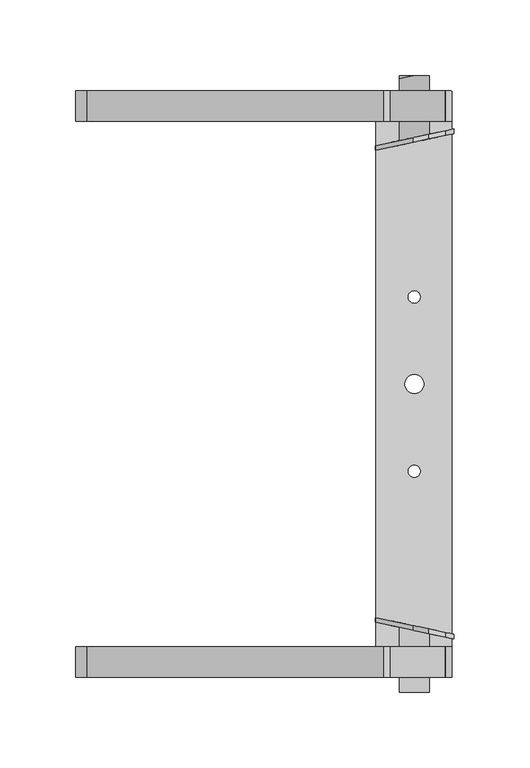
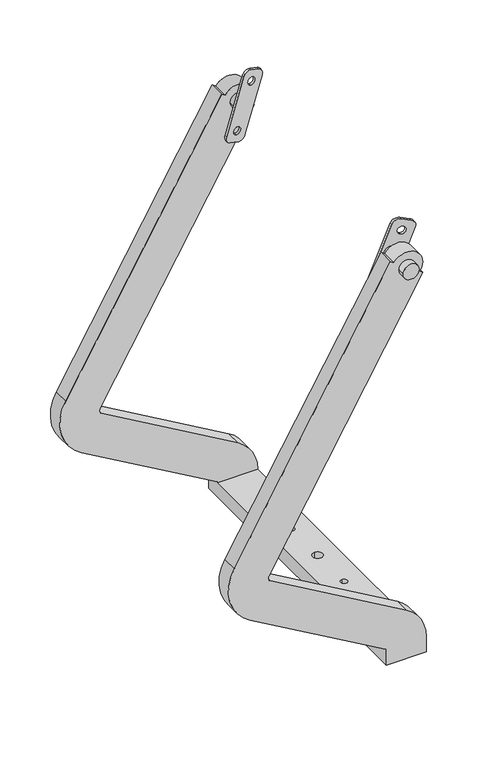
"""IFC4 building model written with IfcOpenShell, lengths in millimetres: proxy geometry, d&b xS-Series 24S Flying Bracket : 24S Flying Bracket."""

from ifc_helpers import new_model, si_unit, point, frame, origin, origin_2d, place, context, project, spatial, polyline, circle_curve, ellipse_curve, trimmed, segment, composite_curve, outline, extrude, source, transform, mapped, element, save
from ifc_brep_helpers import plane_surface, cylinder_surface, revolved_surface, advanced_brep


def communication_devices_b0b455ff(model_context):
    return source(origin(), model_context, "Body", "SolidModel", [
        advanced_brep(
        [(-196.4784998, -173.5365046, -400.1765233), (-216.6098971, -173.5365046, -325.0451261), (-20.5447378, -173.5365046, 14.5496914), (-16.1486659, -173.5365046, 11.4715287), (16.6174159, -173.5365046, -11.4715287), (20.5693158, -173.5365046, -14.2386789), (-173.3086269, -173.5365046, -350.0451261), (-171.4784998, -173.5365046, -356.8752531), (-0.2702831, -173.5365046, -455.7223632), (24.7208916, -173.5365046, -499.9630234), (-25.3170658, -173.5365046, -499.9630234), (-26.1482691, -173.5365046, -498.5167279), (-196.4784998, -193.5365046, -400.1765233), (-26.1482691, -193.5365046, -498.5167279), (-25.3170658, -193.5365046, -499.9630234), (-25.2791084, -193.5365046, -519.8886923), (24.7208916, -193.5365046, -519.8886923), (24.7208916, -193.5365046, -499.9630234), (-0.2702831, -193.5365046, -455.7223632), (-171.4784998, -193.5365046, -356.8752531), (-173.3086269, -193.5365046, -350.0451261), (20.5693158, -193.5365046, -14.2386789), (16.6174159, -193.5365046, -11.4715287), (-16.1486659, -193.5365046, 11.4715287), (-20.5447378, -193.5365046, 14.5496914), (-216.6098971, -193.5365046, -325.0451261), (24.7208916, 173.5365046, -499.9630234), (-25.2811765, 173.5365046, -499.9630234), (-0.0088253, -61.4860861, -499.9630234), (-0.0088253, -53.5139139, -499.9630234), (-0.0088253, 53.5139139, -499.9630234), (-0.0088253, 61.4860861, -499.9630234), (-0.0088253, -6.2, -499.9630234), (-0.0088253, 6.2, -499.9630234), (-25.2791084, 193.5365046, -519.8886923), (24.7208916, 193.5365046, -519.8886923), (-0.0088253, -61.4860861, -519.8886923), (-0.0088253, -53.5139139, -519.8886923), (-0.0088253, 53.5139139, -519.8886923), (-0.0088253, 61.4860861, -519.8886923), (-0.0088253, -6.2, -519.8886923), (-0.0088253, 6.2, -519.8886923), (-25.2791084, 193.5365046, -500.0290694), (-26.1482691, 193.5365046, -498.5167279), (-196.4784998, 193.5365046, -400.1765233), (-216.6098971, 193.5365046, -325.0451261), (-20.5447378, 193.5365046, 14.5496914), (-16.1486659, 193.5365046, 11.4715287), (16.6174159, 193.5365046, -11.4715287), (20.5693158, 193.5365046, -14.2386789), (-173.3086269, 193.5365046, -350.0451261), (-171.4784998, 193.5365046, -356.8752531), (-0.2702831, 193.5365046, -455.7223632), (24.7208916, 193.5365046, -499.9630234), (-196.4784998, 173.5365046, -400.1765233), (-26.1482691, 173.5365046, -498.5167279), (-0.2702831, 173.5365046, -455.7223632), (-171.4784998, 173.5365046, -356.8752531), (-173.3086269, 173.5365046, -350.0451261), (20.5693158, 173.5365046, -14.2386789), (16.6174159, 173.5365046, -11.4715287), (-16.1486659, 173.5365046, 11.4715287), (-20.5447378, 173.5365046, 14.5496914), (-216.6098971, 173.5365046, -325.0451261)],
        [
            (0, 1, circle_curve(frame((-168.9784998, -173.5365046, -352.5451261), z_axis=(0.0, 1.0, 0.0), x_axis=(-1.0, 0.0, 0.0)), 55.0)),
            (1, 2),
            (2, 3),
            (3, 4, circle_curve(frame((0.234375, -173.5365046, 0.0), z_axis=(0.0, 1.0, 0.0), x_axis=(-1.0, 0.0, 0.0)), 20.0)),
            (4, 5),
            (5, 6),
            (6, 7, circle_curve(frame((-168.9784998, -173.5365046, -352.5451261), z_axis=(0.0, -1.0, 0.0), x_axis=(-1.0, 0.0, 0.0)), 5.0)),
            (7, 8),
            (8, 9, circle_curve(frame((-25.2702831, -173.5365046, -499.0236333), z_axis=(0.0, 1.0, 0.0), x_axis=(-1.0, 0.0, 0.0)), 50.0)),
            (9, 10),
            (10, 11),
            (11, 0),
            (12, 13),
            (13, 14),
            (14, 15),
            (15, 16),
            (16, 17),
            (17, 18, circle_curve(frame((-25.2702831, -193.5365046, -499.0236333), z_axis=(0.0, -1.0, 0.0), x_axis=(-1.0, 0.0, 0.0)), 50.0)),
            (18, 19),
            (19, 20, circle_curve(frame((-168.9784998, -193.5365046, -352.5451261), z_axis=(0.0, 1.0, 0.0), x_axis=(-1.0, 0.0, 0.0)), 5.0)),
            (20, 21),
            (21, 22),
            (22, 23, circle_curve(frame((0.234375, -193.5365046, 0.0), z_axis=(0.0, -1.0, 0.0), x_axis=(-1.0, 0.0, 0.0)), 20.0)),
            (23, 24),
            (24, 25),
            (25, 12, circle_curve(frame((-168.9784998, -193.5365046, -352.5451261), z_axis=(0.0, -1.0, 0.0), x_axis=(-1.0, 0.0, 0.0)), 55.0)),
            (0, 12),
            (25, 1),
            (24, 2),
            (23, 3),
            (22, 4),
            (21, 5),
            (20, 6),
            (19, 7),
            (18, 8),
            (17, 9),
            (10, 14),
            (13, 11),
            (9, 26),
            (26, 27),
            (27, 10),
            (28, 29, circle_curve(frame((-0.0088253, -57.5, -499.9630234), z_axis=(0.0, 0.0, -1.0), x_axis=(0.0, 1.0, 0.0)), 3.9860861)),
            (29, 28, circle_curve(frame((-0.0088253, -57.5, -499.9630234), z_axis=(0.0, 0.0, -1.0), x_axis=(0.0, 1.0, 0.0)), 3.9860861)),
            (30, 31, circle_curve(frame((-0.0088253, 57.5, -499.9630234), z_axis=(0.0, 0.0, -1.0), x_axis=(0.0, 1.0, 0.0)), 3.9860861)),
            (31, 30, circle_curve(frame((-0.0088253, 57.5, -499.9630234), z_axis=(0.0, 0.0, -1.0), x_axis=(0.0, 1.0, 0.0)), 3.9860861)),
            (32, 33, circle_curve(frame((-0.0088253, 0.0, -499.9630234), z_axis=(0.0, 0.0, -1.0), x_axis=(0.0, 1.0, 0.0)), 6.2)),
            (33, 32, circle_curve(frame((-0.0088253, 0.0, -499.9630234), z_axis=(0.0, 0.0, -1.0), x_axis=(0.0, 1.0, 0.0)), 6.2)),
            (15, 34),
            (34, 35),
            (35, 16),
            (36, 37, circle_curve(frame((-0.0088253, -57.5, -519.8886923), z_axis=(0.0, 0.0, 1.0), x_axis=(0.0, 1.0, 0.0)), 3.9860861)),
            (37, 36, circle_curve(frame((-0.0088253, -57.5, -519.8886923), z_axis=(0.0, 0.0, 1.0), x_axis=(0.0, 1.0, 0.0)), 3.9860861)),
            (38, 39, circle_curve(frame((-0.0088253, 57.5, -519.8886923), z_axis=(0.0, 0.0, 1.0), x_axis=(0.0, 1.0, 0.0)), 3.9860861)),
            (39, 38, circle_curve(frame((-0.0088253, 57.5, -519.8886923), z_axis=(0.0, 0.0, 1.0), x_axis=(0.0, 1.0, 0.0)), 3.9860861)),
            (40, 41, circle_curve(frame((-0.0088253, 0.0, -519.8886923), z_axis=(0.0, 0.0, 1.0), x_axis=(0.0, 1.0, 0.0)), 6.2)),
            (41, 40, circle_curve(frame((-0.0088253, 0.0, -519.8886923), z_axis=(0.0, 0.0, 1.0), x_axis=(0.0, 1.0, 0.0)), 6.2)),
            (27, 42),
            (42, 34),
            (42, 43),
            (43, 44),
            (44, 45, circle_curve(frame((-168.9784998, 193.5365046, -352.5451261), z_axis=(0.0, 1.0, 0.0), x_axis=(-1.0, 0.0, 0.0)), 55.0)),
            (45, 46),
            (46, 47),
            (47, 48, circle_curve(frame((0.234375, 193.5365046, 0.0), z_axis=(0.0, 1.0, 0.0), x_axis=(-1.0, 0.0, 0.0)), 20.0)),
            (48, 49),
            (49, 50),
            (50, 51, circle_curve(frame((-168.9784998, 193.5365046, -352.5451261), z_axis=(0.0, -1.0, 0.0), x_axis=(-1.0, 0.0, 0.0)), 5.0)),
            (51, 52),
            (52, 53, circle_curve(frame((-25.2702831, 193.5365046, -499.0236333), z_axis=(0.0, 1.0, 0.0), x_axis=(-1.0, 0.0, 0.0)), 50.0)),
            (53, 35),
            (53, 26),
            (29, 37),
            (36, 28),
            (31, 39),
            (38, 30),
            (33, 41),
            (40, 32),
            (54, 55),
            (55, 27),
            (26, 56, circle_curve(frame((-25.2702831, 173.5365046, -499.0236333), z_axis=(0.0, -1.0, 0.0), x_axis=(-1.0, 0.0, 0.0)), 50.0)),
            (56, 57),
            (57, 58, circle_curve(frame((-168.9784998, 173.5365046, -352.5451261), z_axis=(0.0, 1.0, 0.0), x_axis=(-1.0, 0.0, 0.0)), 5.0)),
            (58, 59),
            (59, 60),
            (60, 61, circle_curve(frame((0.234375, 173.5365046, 0.0), z_axis=(0.0, -1.0, 0.0), x_axis=(-1.0, 0.0, 0.0)), 20.0)),
            (61, 62),
            (62, 63),
            (63, 54, circle_curve(frame((-168.9784998, 173.5365046, -352.5451261), z_axis=(0.0, -1.0, 0.0), x_axis=(-1.0, 0.0, 0.0)), 55.0)),
            (63, 45),
            (44, 54),
            (62, 46),
            (61, 47),
            (60, 48),
            (59, 49),
            (58, 50),
            (57, 51),
            (56, 52),
            (55, 43),
        ],
        [
            plane_surface(frame((-223.9784998, -173.5365046, -352.5451261), z_axis=(0.0, 1.0, 0.0), x_axis=(0.0, 0.0, -1.0))),
            plane_surface(frame((-223.9784998, -193.5365046, -352.5451261), z_axis=(0.0, -1.0, 0.0), x_axis=(0.0, 0.0, 1.0))),
            cylinder_surface(frame((-168.9784998, -173.5365046, -352.5451261), z_axis=(0.0, -1.0, 0.0), x_axis=(-1.0, 0.0, 0.0)), 55.0),
            plane_surface(frame((-216.6098971, -193.5365046, -325.0451261), z_axis=(-0.866025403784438, 0.0, 0.500000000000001), x_axis=(0.0, 1.0, 0.0))),
            plane_surface(frame((-20.5447378, -193.5365046, 14.5496914), z_axis=(0.5735764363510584, 0.0, 0.8191520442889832), x_axis=(0.0, 1.0, 0.0))),
            cylinder_surface(frame((0.234375, -173.5365046, 0.0), z_axis=(0.0, -1.0, 0.0), x_axis=(-1.0, 0.0, 0.0)), 20.0),
            plane_surface(frame((16.6174159, -193.5365046, -11.4715287), z_axis=(0.573576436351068, 0.0, 0.8191520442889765), x_axis=(0.0, 1.0, 0.0))),
            plane_surface(frame((20.5693158, -193.5365046, -14.2386789), z_axis=(0.8660254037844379, 0.0, -0.5000000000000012), x_axis=(0.0, 1.0, 0.0))),
            revolved_surface(polyline([(-173.9784998, -173.5365046, -352.5451261), (-173.9784998, -193.5365046, -352.5451261)]), (-168.9784998, -173.5365046, -352.5451261), (0.0, 1.0, 0.0)),
            plane_surface(frame((-171.4784998, -193.5365046, -356.8752531), z_axis=(0.4999999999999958, 0.0, 0.8660254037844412), x_axis=(0.0, 1.0, 0.0))),
            cylinder_surface(frame((-25.2702831, -173.5365046, -499.0236333), z_axis=(0.0, -1.0, 0.0), x_axis=(-1.0, 0.0, 0.0)), 50.0),
            plane_surface(frame((-25.3170658, -193.5365046, -499.9630234), z_axis=(-0.867014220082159, 0.0, -0.49828339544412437), x_axis=(0.0, 1.0, 0.0))),
            plane_surface(frame((-26.1482691, -193.5365046, -498.5167279), z_axis=(-0.4999999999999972, 0.0, -0.8660254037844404), x_axis=(0.0, 1.0, 0.0))),
            plane_surface(frame((-25.2791084, -193.5365046, -499.9630234), z_axis=(0.0, 0.0, 1.0), x_axis=(-1.0, 0.0, 0.0))),
            plane_surface(frame((-25.2791084, -193.5365046, -519.8886923), z_axis=(0.0, 0.0, -1.0), x_axis=(1.0, 0.0, 0.0))),
            plane_surface(frame((-25.2791084, -193.5365046, -499.9630234), z_axis=(-1.0, 0.0, 0.0), x_axis=(0.0, 0.0, -1.0))),
            plane_surface(frame((-25.2791084, 193.5365046, -499.9630234), z_axis=(0.0, 1.0, 0.0), x_axis=(0.0, 0.0, -1.0))),
            plane_surface(frame((24.7208916, 193.5365046, -499.9630234), z_axis=(1.0, 0.0, 0.0), x_axis=(0.0, 0.0, -1.0))),
            revolved_surface(polyline([(-0.0088253, -53.5139139, -519.8886923), (-0.0088253, -53.5139139, -499.9630234)]), (-0.0088253, -57.5, -1019.8517157), (0.0, 0.0, -1.0)),
            revolved_surface(polyline([(-0.0088253, 61.4860861, -519.8886923), (-0.0088253, 61.4860861, -499.9630234)]), (-0.0088253, 57.5, -1019.8517157), (0.0, 0.0, -1.0)),
            revolved_surface(polyline([(-0.0088253, 6.2, -519.8886923), (-0.0088253, 6.2, -499.9630234)]), (-0.0088253, 0.0, -1019.8517157), (0.0, 0.0, -1.0)),
            plane_surface(frame((-26.1482691, 173.5365046, -498.5167279), z_axis=(0.0, -1.0000000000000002, 0.0), x_axis=(-0.8660254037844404, 0.0, 0.4999999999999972))),
            cylinder_surface(frame((-168.9784998, 173.5365046, -352.5451261), z_axis=(0.0, 1.0, 0.0), x_axis=(-1.0, 0.0, 0.0)), 55.0),
            plane_surface(frame((-20.5447378, 193.5365046, 14.5496914), z_axis=(-0.866025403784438, 0.0, 0.500000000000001), x_axis=(0.0, -1.0, 0.0))),
            plane_surface(frame((-16.1486659, 193.5365046, 11.4715287), z_axis=(0.5735764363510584, 0.0, 0.8191520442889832), x_axis=(0.0, -1.0, 0.0))),
            cylinder_surface(frame((0.234375, 173.5365046, 0.0), z_axis=(0.0, 1.0, 0.0), x_axis=(-1.0, 0.0, 0.0)), 20.0),
            plane_surface(frame((20.5693158, 193.5365046, -14.2386789), z_axis=(0.573576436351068, 0.0, 0.8191520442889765), x_axis=(0.0, -1.0, 0.0))),
            plane_surface(frame((-173.3086269, 193.5365046, -350.0451261), z_axis=(0.8660254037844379, 0.0, -0.5000000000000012), x_axis=(0.0, -1.0, 0.0))),
            revolved_surface(polyline([(-173.9784998, 173.5365046, -352.5451261), (-173.9784998, 193.5365046, -352.5451261)]), (-168.9784998, 173.5365046, -352.5451261), (0.0, -1.0, 0.0)),
            plane_surface(frame((-0.2702831, 193.5365046, -455.7223632), z_axis=(0.4999999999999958, 0.0, 0.8660254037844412), x_axis=(0.0, -1.0, 0.0))),
            cylinder_surface(frame((-25.2702831, 173.5365046, -499.0236333), z_axis=(0.0, 1.0, 0.0), x_axis=(-1.0, 0.0, 0.0)), 50.0),
            plane_surface(frame((-26.1482691, 193.5365046, -498.5167279), z_axis=(-0.867014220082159, 0.0, -0.49828339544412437), x_axis=(0.0, -1.0, 0.0))),
            plane_surface(frame((-196.4784998, 193.5365046, -400.1765233), z_axis=(-0.4999999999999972, 0.0, -0.8660254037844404), x_axis=(0.0, -1.0, 0.0))),
        ],
        [
            (0, [[1, 2, 3, 4, 5, 6, 7, 8, 9, 10, 11, 12]]),
            (1, [[13, 14, 15, 16, 17, 18, 19, 20, 21, 22, 23, 24, 25, 26]]),
            (2, [[27, -26, 28, -1]]),
            (3, [[-28, -25, 29, -2]]),
            (4, [[-29, -24, 30, -3]]),
            (5, [[-30, -23, 31, -4]]),
            (6, [[-31, -22, 32, -5]]),
            (7, [[-32, -21, 33, -6]]),
            (8, [[-33, -20, 34, -7]]),
            (9, [[-34, -19, 35, -8]]),
            (10, [[-35, -18, 36, -9]]),
            (11, [[37, -14, 38, -11]]),
            (12, [[-38, -13, -27, -12]]),
            (13, [[39, 40, 41, -10], [42, 43], [44, 45], [46, 47]]),
            (14, [[-16, 48, 49, 50], [51, 52], [53, 54], [55, 56]]),
            (15, [[-15, -37, -41, 57, 58, -48]]),
            (16, [[-58, 59, 60, 61, 62, 63, 64, 65, 66, 67, 68, 69, 70, -49]]),
            (17, [[-70, 71, -39, -36, -17, -50]]),
            (18, [[72, -51, 73, -43]]),
            (18, [[-73, -52, -72, -42]]),
            (19, [[74, -53, 75, -45]]),
            (19, [[-75, -54, -74, -44]]),
            (20, [[76, -55, 77, -47]]),
            (20, [[-77, -56, -76, -46]]),
            (21, [[78, 79, -40, 80, 81, 82, 83, 84, 85, 86, 87, 88]]),
            (22, [[89, -61, 90, -88]]),
            (23, [[91, -62, -89, -87]]),
            (24, [[92, -63, -91, -86]]),
            (25, [[93, -64, -92, -85]]),
            (26, [[94, -65, -93, -84]]),
            (27, [[95, -66, -94, -83]]),
            (28, [[96, -67, -95, -82]]),
            (29, [[97, -68, -96, -81]]),
            (30, [[-71, -69, -97, -80]]),
            (31, [[98, -59, -57, -79]]),
            (32, [[-90, -60, -98, -78]]),
        ],
    ),
        advanced_brep(
        [(-10.0, 160.6914876, 0.0), (10.0, 164.9426189, 0.0), (10.0, 173.5365046, 0.0), (-10.0, 173.5365046, 0.0)],
        [
            (0, 1, ellipse_curve(frame((0.0, 162.8170533, 0.0), z_axis=(0.2079116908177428, -0.9781476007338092, 0.0), x_axis=(0.9781476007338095, 0.20791169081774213, 0.0)), 10.2234059, 10.0)),
            (1, 0, ellipse_curve(frame((0.0, 162.8170533, 0.0), z_axis=(0.2079116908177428, -0.9781476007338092, 0.0), x_axis=(0.9781476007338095, 0.20791169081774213, 0.0)), 10.2234059, 10.0)),
            (2, 3, circle_curve(frame((0.0, 173.5365046, 0.0), z_axis=(0.0, 1.0, 0.0), x_axis=(-1.0, 0.0, 0.0)), 10.0)),
            (3, 2, circle_curve(frame((0.0, 173.5365046, 0.0), z_axis=(0.0, 1.0, 0.0), x_axis=(-1.0, 0.0, 0.0)), 10.0)),
            (3, 0),
            (1, 2),
        ],
        [
            plane_surface(frame((-88.6570191, 143.9724221, 100.0), z_axis=(0.2079116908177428, -0.9781476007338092, 0.0), x_axis=(0.0, 0.0, -1.0))),
            plane_surface(frame((-10.0, 173.5365046, 0.0), z_axis=(0.0, 1.0, 0.0), x_axis=(0.0, 0.0, -1.0))),
            cylinder_surface(frame((0.0, 140.8093285, 0.0), z_axis=(0.0, 1.0, 0.0), x_axis=(-1.0, 0.0, 0.0)), 10.0),
        ],
        [
            (0, [[1, 2]]),
            (1, [[3, 4]]),
            (2, [[5, -2, 6, -4]]),
            (2, [[-6, -1, -5, -3]]),
        ],
    ),
        advanced_brep(
        [(-9.1707795, 157.8007221, -43.4006257), (-20.4582431, 155.4014977, -39.2923249), (-20.4582431, 158.4685194, -39.2923249), (-9.1707795, 160.8677439, -43.4006257), (1.0829226, 163.0472356, -38.6192459), (1.0829226, 159.9802138, -38.6192459), (25.7083729, 168.2815366, 29.0386228), (25.7083729, 165.2145148, 29.0386228), (20.9269931, 167.265223, 39.2923249), (20.9269931, 164.1982012, 39.2923249), (9.6077417, 164.8592418, 43.4121955), (9.6077417, 161.79222, 43.4121955), (-0.6026028, 162.6889661, 38.6510336), (-0.6026028, 159.6219443, 38.6510336), (-25.2396229, 157.4522058, -29.0386228), (-25.2396229, 154.385184, -29.0386228), (11.9848396, 162.2974878, 32.9694027), (8.5646381, 161.5705015, 23.5724765), (8.5646381, 164.6375233, 23.5724765), (11.9848396, 165.3645095, 32.9694027), (-8.536369, 157.9355702, -23.4121545), (-11.9565705, 157.208584, -32.8090808), (-11.9565705, 160.2756057, -32.8090808), (-8.536369, 161.002592, -23.4121545)],
        [
            (0, 1),
            (1, 2),
            (2, 3),
            (3, 0),
            (3, 4, ellipse_curve(frame((-6.4346183, 161.4493329, -35.8830847), z_axis=(0.20791169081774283, -0.9781476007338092, 0.0), x_axis=(-0.9781476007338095, -0.20791169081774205, 0.0)), 8.1787248, 8.0)),
            (4, 5),
            (5, 0, ellipse_curve(frame((-6.4346183, 158.3823111, -35.8830847), z_axis=(-0.20791169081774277, 0.9781476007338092, 0.0), x_axis=(-0.9781476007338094, -0.20791169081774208, 0.0)), 8.1787248, 8.0)),
            (4, 6),
            (6, 7),
            (7, 5),
            (6, 8, ellipse_curve(frame((18.190832, 166.683634, 31.774784), z_axis=(0.20791169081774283, -0.9781476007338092, 0.0), x_axis=(-0.9781476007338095, -0.20791169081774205, 0.0)), 8.1787248, 8.0)),
            (8, 9),
            (9, 7, ellipse_curve(frame((18.190832, 163.6166122, 31.774784), z_axis=(-0.20791169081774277, 0.9781476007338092, 0.0), x_axis=(-0.9781476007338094, -0.20791169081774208, 0.0)), 8.1787248, 8.0)),
            (8, 10),
            (10, 11),
            (11, 9),
            (10, 12, ellipse_curve(frame((6.8831504, 164.280112, 35.9264423), z_axis=(0.20791169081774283, -0.9781476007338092, 0.0), x_axis=(-0.9781476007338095, -0.20791169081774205, 0.0)), 8.1441412, 7.9661722)),
            (12, 13),
            (13, 11, ellipse_curve(frame((6.8831504, 161.2130903, 35.9264423), z_axis=(-0.20791169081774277, 0.9781476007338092, 0.0), x_axis=(-0.9781476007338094, -0.20791169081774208, 0.0)), 8.1441412, 7.9661722)),
            (12, 14),
            (14, 15),
            (15, 13),
            (14, 2, ellipse_curve(frame((-17.722082, 159.0501084, -31.774784), z_axis=(0.20791169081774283, -0.9781476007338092, 0.0), x_axis=(-0.9781476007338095, -0.20791169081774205, 0.0)), 8.1787248, 8.0)),
            (1, 15, ellipse_curve(frame((-17.722082, 155.9830867, -31.774784), z_axis=(-0.20791169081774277, 0.9781476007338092, 0.0), x_axis=(-0.9781476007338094, -0.20791169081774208, 0.0)), 8.1787248, 8.0)),
            (16, 17, ellipse_curve(frame((10.2747388, 161.9339946, 28.2709396), z_axis=(0.20791169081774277, -0.9781476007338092, 0.0), x_axis=(0.9781476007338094, 0.20791169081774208, 0.0)), 5.111703, 5.0)),
            (17, 18),
            (18, 19, ellipse_curve(frame((10.2747388, 165.0010164, 28.2709396), z_axis=(-0.20791169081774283, 0.9781476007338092, 0.0), x_axis=(0.9781476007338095, 0.20791169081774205, 0.0)), 5.111703, 5.0)),
            (19, 16),
            (19, 18, ellipse_curve(frame((10.2747388, 165.0010164, 28.2709396), z_axis=(-0.20791169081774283, 0.9781476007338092, 0.0), x_axis=(0.9781476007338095, 0.20791169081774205, 0.0)), 5.111703, 5.0)),
            (17, 16, ellipse_curve(frame((10.2747388, 161.9339946, 28.2709396), z_axis=(0.20791169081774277, -0.9781476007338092, 0.0), x_axis=(0.9781476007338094, 0.20791169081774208, 0.0)), 5.111703, 5.0)),
            (20, 21, ellipse_curve(frame((-10.2464698, 157.5720771, -28.1106177), z_axis=(0.20791169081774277, -0.9781476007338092, 0.0), x_axis=(0.9781476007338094, 0.20791169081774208, 0.0)), 5.111703, 5.0)),
            (21, 22),
            (22, 23, ellipse_curve(frame((-10.2464698, 160.6390989, -28.1106177), z_axis=(-0.20791169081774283, 0.9781476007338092, 0.0), x_axis=(0.9781476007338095, 0.20791169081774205, 0.0)), 5.111703, 5.0)),
            (23, 20),
            (23, 22, ellipse_curve(frame((-10.2464698, 160.6390989, -28.1106177), z_axis=(-0.20791169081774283, 0.9781476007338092, 0.0), x_axis=(0.9781476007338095, 0.20791169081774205, 0.0)), 5.111703, 5.0)),
            (21, 20, ellipse_curve(frame((-10.2464698, 157.5720771, -28.1106177), z_axis=(0.20791169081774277, -0.9781476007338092, 0.0), x_axis=(0.9781476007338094, 0.20791169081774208, 0.0)), 5.111703, 5.0)),
        ],
        [
            plane_surface(frame((-9.1707795, 121.0483112, -43.4006257), z_axis=(-0.34202014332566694, 0.0, -0.9396926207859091), x_axis=(0.0, 1.0, 0.0))),
            cylinder_surface(frame((-6.4346183, 173.5365046, -35.8830847), z_axis=(0.0, -1.0, 0.0), x_axis=(0.34202014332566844, 0.0, 0.9396926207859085)), 8.0),
            plane_surface(frame((25.7083729, 121.0483112, 29.0386228), z_axis=(0.9396926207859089, 0.0, -0.34202014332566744), x_axis=(0.0, 1.0, 0.0))),
            cylinder_surface(frame((18.190832, 173.5365046, 31.774784), z_axis=(0.0, -1.0, 0.0), x_axis=(0.34202014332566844, 0.0, 0.9396926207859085)), 8.0),
            plane_surface(frame((9.6077417, 121.0483112, 43.4121955), z_axis=(0.3420201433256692, 0.0, 0.9396926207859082), x_axis=(0.0, 1.0, 0.0))),
            cylinder_surface(frame((6.8831504, 173.5365046, 35.9264423), z_axis=(0.0, -1.0, 0.0), x_axis=(0.34202014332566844, 0.0, 0.9396926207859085)), 7.9661722),
            plane_surface(frame((-25.2396229, 121.0483112, -29.0386228), z_axis=(-0.9396926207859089, 0.0, 0.3420201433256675), x_axis=(0.0, 1.0, 0.0))),
            cylinder_surface(frame((-17.722082, 173.5365046, -31.774784), z_axis=(0.0, -1.0, 0.0), x_axis=(0.34202014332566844, 0.0, 0.9396926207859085)), 8.0),
            revolved_surface(polyline([(11.984839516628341, 166.06379921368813, 32.96940270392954), (11.984839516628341, 160.87121178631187, 32.96940270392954)]), (10.2747388, 0.0, 28.2709396), (0.0, 1.0, 0.0)),
            revolved_surface(polyline([(-8.536369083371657, 161.70188171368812, -23.412154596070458), (-8.536369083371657, 156.50929428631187, -23.412154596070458)]), (-10.2464698, 0.0, -28.1106177), (0.0, 1.0, 0.0)),
            plane_surface(frame((-88.0332841, 141.0379793, 100.0), z_axis=(0.20791169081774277, -0.9781476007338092, 0.0), x_axis=(0.0, 0.0, -1.0))),
            plane_surface(frame((126.535453, 189.7129941, 100.0), z_axis=(-0.20791169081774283, 0.9781476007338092, 0.0), x_axis=(0.0, 0.0, -1.0))),
        ],
        [
            (0, [[1, 2, 3, 4]]),
            (1, [[5, 6, 7, -4]]),
            (2, [[8, 9, 10, -6]]),
            (3, [[11, 12, 13, -9]]),
            (4, [[14, 15, 16, -12]]),
            (5, [[17, 18, 19, -15]]),
            (6, [[20, 21, 22, -18]]),
            (7, [[23, -2, 24, -21]]),
            (8, [[25, 26, 27, 28]]),
            (8, [[29, -26, 30, -28]]),
            (9, [[31, 32, 33, 34]]),
            (9, [[35, -32, 36, -34]]),
            (10, [[-7, -10, -13, -16, -19, -22, -24, -1], [-30, -25], [-36, -31]]),
            (11, [[-23, -20, -17, -14, -11, -8, -5, -3], [-29, -27], [-35, -33]]),
        ],
    ),
        advanced_brep(
        [(-0.819417, 203.5365046, 9.9663712), (-0.819417, 203.5365046, -9.9663712), (-10.0, 203.5365046, 0.0), (-10.0, 201.5851114, 0.0)],
        [
            (0, 1),
            (1, 2, circle_curve(frame((0.0, 203.5365046, 0.0), z_axis=(0.0, 1.0, 0.0), x_axis=(-1.0, 0.0, 0.0)), 10.0)),
            (2, 0, circle_curve(frame((0.0, 203.5365046, 0.0), z_axis=(0.0, 1.0, 0.0), x_axis=(-1.0, 0.0, 0.0)), 10.0)),
            (2, 3),
            (3, 0, ellipse_curve(frame((0.0, 203.7106771, 0.0), z_axis=(-0.2079116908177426, 0.9781476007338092, 0.0), x_axis=(0.9781476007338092, 0.2079116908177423, 0.0)), 10.2234059, 10.0)),
            (1, 3, ellipse_curve(frame((0.0, 203.7106771, 0.0), z_axis=(-0.2079116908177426, 0.9781476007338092, 0.0), x_axis=(0.9781476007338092, 0.2079116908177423, 0.0)), 10.2234059, 10.0)),
        ],
        [
            plane_surface(frame((-10.0, 203.5365046, 0.0), z_axis=(0.0, 1.0, 0.0), x_axis=(0.0, 0.0, -1.0))),
            cylinder_surface(frame((0.0, 193.5365046, 0.0), z_axis=(0.0, 1.0, 0.0), x_axis=(-1.0, 0.0, 0.0)), 10.0),
            plane_surface(frame((-96.9734868, 183.0983261, 100.0), z_axis=(0.2079116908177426, -0.9781476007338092, 0.0), x_axis=(0.0, 0.0, -1.0))),
        ],
        [
            (0, [[1, 2, 3]]),
            (1, [[4, 5, -3]]),
            (1, [[6, -4, -2]]),
            (2, [[-5, -6, -1]]),
        ],
    ),
        advanced_brep(
        [(10.0, -164.9426189, 0.0), (-10.0, -160.6914876, 0.0), (10.0, -173.5365046, 0.0), (-10.0, -173.5365046, 0.0)],
        [
            (0, 1, ellipse_curve(frame((0.0, -162.8170533, 0.0), z_axis=(0.20791169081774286, 0.9781476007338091, 0.0), x_axis=(0.9781476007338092, -0.20791169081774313, 0.0)), 10.2234059, 10.0)),
            (1, 0, ellipse_curve(frame((0.0, -162.8170533, 0.0), z_axis=(0.20791169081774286, 0.9781476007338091, 0.0), x_axis=(0.9781476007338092, -0.20791169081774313, 0.0)), 10.2234059, 10.0)),
            (2, 3, circle_curve(frame((0.0, -173.5365046, 0.0), z_axis=(0.0, -1.0, 0.0), x_axis=(-1.0, 0.0, 0.0)), 10.0)),
            (3, 2, circle_curve(frame((0.0, -173.5365046, 0.0), z_axis=(0.0, -1.0, 0.0), x_axis=(-1.0, 0.0, 0.0)), 10.0)),
            (2, 0),
            (1, 3),
        ],
        [
            plane_surface(frame((126.535453, -189.7129941, 100.0), z_axis=(0.20791169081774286, 0.9781476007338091, 0.0), x_axis=(0.0, 0.0, -1.0))),
            plane_surface(frame((-10.0, -173.5365046, 0.0), z_axis=(0.0, -1.0, 0.0), x_axis=(0.0, 0.0, 1.0))),
            cylinder_surface(frame((0.0, -140.8093285, 0.0), z_axis=(0.0, -1.0, 0.0), x_axis=(-1.0, 0.0, 0.0)), 10.0),
        ],
        [
            (0, [[1, 2]]),
            (1, [[3, 4]]),
            (2, [[5, -2, 6, -3]]),
            (2, [[-6, -1, -5, -4]]),
        ],
    ),
        extrude(outline(composite_curve([segment(trimmed(circle_curve(origin_2d(), 10.0), [point((0.0, -10.0))], [point((0.0, 10.0))], False, "CARTESIAN"), True, "CONTINUOUS"), segment(trimmed(circle_curve(origin_2d(), 10.0), [point((0.0, 10.0))], [point((0.0, -10.0))], False, "CARTESIAN"), True, "CONTINUOUS")], self_intersect=False)), frame((0.0, -203.5365046, 0.0), z_axis=(0.0, 1.0, 0.0), x_axis=(0.0, 0.0, 1.0)), (0.0, 0.0, 1.0), 10.0),
        advanced_brep(
        [(-20.4582431, -155.4014977, -39.2923249), (-9.1707795, -157.8007221, -43.4006257), (-9.1707795, -160.8677439, -43.4006257), (-20.4582431, -158.4685194, -39.2923249), (1.0829226, -159.9802138, -38.6192459), (1.0829226, -163.0472356, -38.6192459), (25.7083729, -165.2145148, 29.0386228), (25.7083729, -168.2815366, 29.0386228), (20.9269931, -164.1982012, 39.2923249), (20.9269931, -167.265223, 39.2923249), (9.6077417, -161.79222, 43.4121955), (9.6077417, -164.8592418, 43.4121955), (-0.6026028, -159.6219443, 38.6510336), (-0.6026028, -162.6889661, 38.6510336), (-25.2396229, -154.385184, -29.0386228), (-25.2396229, -157.4522058, -29.0386228), (8.5646381, -161.5705015, 23.5724765), (11.9848396, -162.2974878, 32.9694027), (11.9848396, -165.3645095, 32.9694027), (8.5646381, -164.6375233, 23.5724765), (-11.9565705, -157.208584, -32.8090808), (-8.536369, -157.9355702, -23.4121545), (-8.536369, -161.002592, -23.4121545), (-11.9565705, -160.2756057, -32.8090808)],
        [
            (0, 1),
            (1, 2),
            (2, 3),
            (3, 0),
            (1, 4, ellipse_curve(frame((-6.4346183, -158.3823111, -35.8830847), z_axis=(-0.20791169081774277, -0.9781476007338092, 0.0), x_axis=(-0.9781476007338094, 0.20791169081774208, 0.0)), 8.1787248, 8.0)),
            (4, 5),
            (5, 2, ellipse_curve(frame((-6.4346183, -161.4493329, -35.8830847), z_axis=(0.20791169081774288, 0.9781476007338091, 0.0), x_axis=(-0.978147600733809, 0.207911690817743, 0.0)), 8.1787248, 8.0)),
            (4, 6),
            (6, 7),
            (7, 5),
            (6, 8, ellipse_curve(frame((18.190832, -163.6166122, 31.774784), z_axis=(-0.20791169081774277, -0.9781476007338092, 0.0), x_axis=(-0.9781476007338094, 0.20791169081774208, 0.0)), 8.1787248, 8.0)),
            (8, 9),
            (9, 7, ellipse_curve(frame((18.190832, -166.683634, 31.774784), z_axis=(0.20791169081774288, 0.9781476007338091, 0.0), x_axis=(-0.978147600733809, 0.207911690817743, 0.0)), 8.1787248, 8.0)),
            (8, 10),
            (10, 11),
            (11, 9),
            (10, 12, ellipse_curve(frame((6.8831504, -161.2130903, 35.9264423), z_axis=(-0.20791169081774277, -0.9781476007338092, 0.0), x_axis=(-0.9781476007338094, 0.20791169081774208, 0.0)), 8.1441412, 7.9661722)),
            (12, 13),
            (13, 11, ellipse_curve(frame((6.8831504, -164.280112, 35.9264423), z_axis=(0.20791169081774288, 0.9781476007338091, 0.0), x_axis=(-0.978147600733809, 0.207911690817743, 0.0)), 8.1441412, 7.9661722)),
            (12, 14),
            (14, 15),
            (15, 13),
            (3, 15, ellipse_curve(frame((-17.722082, -159.0501084, -31.774784), z_axis=(0.20791169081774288, 0.9781476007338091, 0.0), x_axis=(-0.978147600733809, 0.207911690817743, 0.0)), 8.1787248, 8.0)),
            (14, 0, ellipse_curve(frame((-17.722082, -155.9830867, -31.774784), z_axis=(-0.20791169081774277, -0.9781476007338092, 0.0), x_axis=(-0.9781476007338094, 0.20791169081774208, 0.0)), 8.1787248, 8.0)),
            (16, 17, ellipse_curve(frame((10.2747388, -161.9339946, 28.2709396), z_axis=(0.20791169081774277, 0.9781476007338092, 0.0), x_axis=(0.9781476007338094, -0.20791169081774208, 0.0)), 5.111703, 5.0)),
            (17, 18),
            (18, 19, ellipse_curve(frame((10.2747388, -165.0010164, 28.2709396), z_axis=(-0.20791169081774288, -0.9781476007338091, 0.0), x_axis=(0.978147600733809, -0.207911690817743, 0.0)), 5.111703, 5.0)),
            (19, 16),
            (19, 18, ellipse_curve(frame((10.2747388, -165.0010164, 28.2709396), z_axis=(-0.20791169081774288, -0.9781476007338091, 0.0), x_axis=(0.978147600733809, -0.207911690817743, 0.0)), 5.111703, 5.0)),
            (17, 16, ellipse_curve(frame((10.2747388, -161.9339946, 28.2709396), z_axis=(0.20791169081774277, 0.9781476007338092, 0.0), x_axis=(0.9781476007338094, -0.20791169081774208, 0.0)), 5.111703, 5.0)),
            (20, 21, ellipse_curve(frame((-10.2464698, -157.5720771, -28.1106177), z_axis=(0.20791169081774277, 0.9781476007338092, 0.0), x_axis=(0.9781476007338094, -0.20791169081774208, 0.0)), 5.111703, 5.0)),
            (21, 22),
            (22, 23, ellipse_curve(frame((-10.2464698, -160.6390989, -28.1106177), z_axis=(-0.20791169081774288, -0.9781476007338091, 0.0), x_axis=(0.978147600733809, -0.207911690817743, 0.0)), 5.111703, 5.0)),
            (23, 20),
            (23, 22, ellipse_curve(frame((-10.2464698, -160.6390989, -28.1106177), z_axis=(-0.20791169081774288, -0.9781476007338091, 0.0), x_axis=(0.978147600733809, -0.207911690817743, 0.0)), 5.111703, 5.0)),
            (21, 20, ellipse_curve(frame((-10.2464698, -157.5720771, -28.1106177), z_axis=(0.20791169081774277, 0.9781476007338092, 0.0), x_axis=(0.9781476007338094, -0.20791169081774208, 0.0)), 5.111703, 5.0)),
        ],
        [
            plane_surface(frame((-20.4582431, -121.0483112, -39.2923249), z_axis=(-0.34202014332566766, 0.0, -0.9396926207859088), x_axis=(0.0, -1.0, 0.0))),
            cylinder_surface(frame((-6.4346183, -173.5365046, -35.8830847), z_axis=(0.0, 1.0, 0.0), x_axis=(0.3420201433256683, 0.0, 0.9396926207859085)), 8.0),
            plane_surface(frame((1.0829226, -121.0483112, -38.6192459), z_axis=(0.939692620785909, 0.0, -0.3420201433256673), x_axis=(0.0, -1.0, 0.0))),
            cylinder_surface(frame((18.190832, -173.5365046, 31.774784), z_axis=(0.0, 1.0, 0.0), x_axis=(0.3420201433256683, 0.0, 0.9396926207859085)), 8.0),
            plane_surface(frame((20.9269931, -121.0483112, 39.2923249), z_axis=(0.34202014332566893, 0.0, 0.9396926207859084), x_axis=(0.0, -1.0, 0.0))),
            cylinder_surface(frame((6.8831504, -173.5365046, 35.9264423), z_axis=(0.0, 1.0, 0.0), x_axis=(0.3420201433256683, 0.0, 0.9396926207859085)), 7.9661722),
            plane_surface(frame((-0.6026028, -121.0483112, 38.6510336), z_axis=(-0.9396926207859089, 0.0, 0.3420201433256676), x_axis=(0.0, -1.0, 0.0))),
            cylinder_surface(frame((-17.722082, -173.5365046, -31.774784), z_axis=(0.0, 1.0, 0.0), x_axis=(0.3420201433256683, 0.0, 0.9396926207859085)), 8.0),
            revolved_surface(polyline([(11.984839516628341, -166.06379921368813, 32.96940270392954), (11.984839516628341, -160.87121178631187, 32.96940270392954)]), (10.2747388, 0.0, 28.2709396), (0.0, -1.0, 0.0)),
            revolved_surface(polyline([(-8.536369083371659, -161.70188171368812, -23.412154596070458), (-8.536369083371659, -156.50929428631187, -23.412154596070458)]), (-10.2464698, 0.0, -28.1106177), (0.0, -1.0, 0.0)),
            plane_surface(frame((127.1591881, -186.7785513, 100.0), z_axis=(0.20791169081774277, 0.9781476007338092, 0.0), x_axis=(0.0, 0.0, -1.0))),
            plane_surface(frame((-88.6570191, -143.9724221, 100.0), z_axis=(-0.20791169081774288, -0.9781476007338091, 0.0), x_axis=(0.0, 0.0, -1.0))),
        ],
        [
            (0, [[1, 2, 3, 4]]),
            (1, [[5, 6, 7, -2]]),
            (2, [[8, 9, 10, -6]]),
            (3, [[11, 12, 13, -9]]),
            (4, [[14, 15, 16, -12]]),
            (5, [[17, 18, 19, -15]]),
            (6, [[20, 21, 22, -18]]),
            (7, [[23, -21, 24, -4]]),
            (8, [[25, 26, 27, 28]]),
            (8, [[29, -26, 30, -28]]),
            (9, [[31, 32, 33, 34]]),
            (9, [[35, -32, 36, -34]]),
            (10, [[-24, -20, -17, -14, -11, -8, -5, -1], [-30, -25], [-36, -31]]),
            (11, [[-7, -10, -13, -16, -19, -22, -23, -3], [-29, -27], [-35, -33]]),
        ],
    ),
        extrude(outline(composite_curve([segment(trimmed(circle_curve(origin_2d(), 10.0), [point((0.0, -10.0))], [point((0.0, 10.0))], False, "CARTESIAN"), True, "CONTINUOUS"), segment(trimmed(circle_curve(origin_2d(), 10.0), [point((0.0, 10.0))], [point((0.0, -10.0))], False, "CARTESIAN"), True, "CONTINUOUS")], self_intersect=False)), frame((0.0, 193.5365046, 0.0), z_axis=(0.0, 1.0, 0.0), x_axis=(0.0, 0.0, 1.0)), (0.0, 0.0, 1.0), 10.0),
    ])


if __name__ == "__main__":
    model = new_model("IFC4")
    model_context = context("Model", 3, world=origin())
    ifc_project = project(units=[si_unit("LENGTHUNIT", "METRE", prefix="MILLI")], contexts=[model_context])
    site = spatial("IfcSite", under=ifc_project)
    building = spatial("IfcBuilding", under=site)
    placement = place(None, origin())
    communication_devices_shape = communication_devices_b0b455ff(model_context)
    element("IfcBuildingElementProxy", 1, Name="d&b xS-Series 24S Flying Bracket : 24S Flying Bracket", ObjectType="d&b xS-Series 24S Flying Bracket : 24S Flying Bracket", at=placement, inside=building, context=model_context, shape_type="MappedRepresentation", body=[
        mapped(communication_devices_shape, transform((0.0, 0.0, 0.0), x_axis=(1.0, 0.0, 0.0), y_axis=(0.0, 1.0, 0.0), z_axis=(0.0, 0.0, 1.0))),
    ])
    save(model, "model.ifc")
